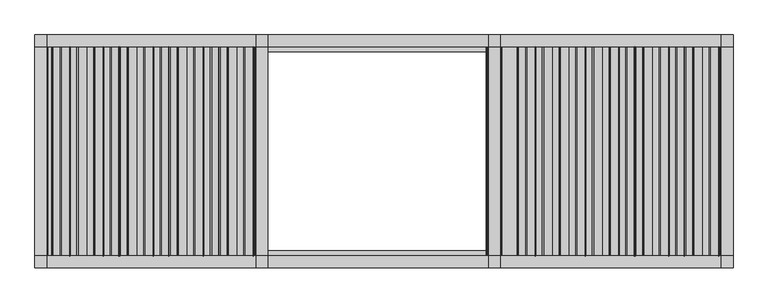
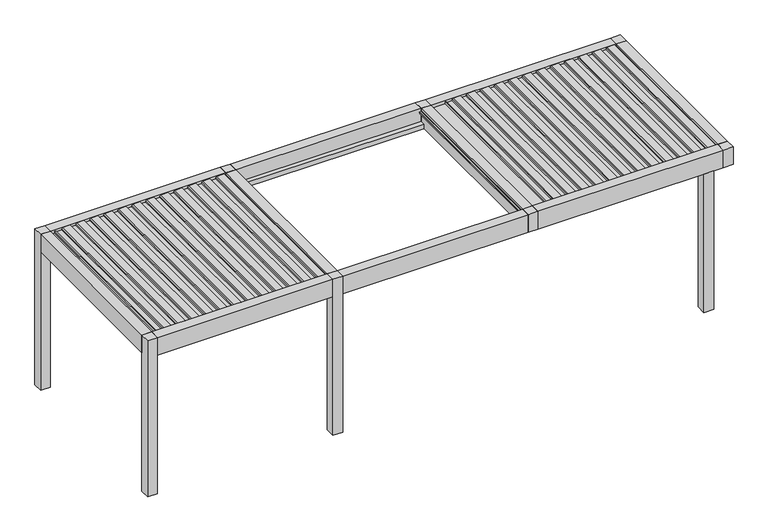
"""IFC4 building model written with IfcOpenShell, lengths in millimetres: proxy geometry, Renson_Amani_Patio_Cover : Renson_Amani_Patio_Cover."""

from ifc_helpers import new_model, si_unit, point, frame, frame_2d, origin, origin_with_axes, place, context, project, spatial, polyline, circle_curve, trimmed, segment, composite_curve, outline, extrude, source, transform, mapped, element, save


def generic_models_f69b2891(model_context):
    return source(origin(), model_context, "Body", "SweptSolid", [
        extrude(outline(composite_curve([segment(polyline([(2483.35, 7073.7289238), (2511.01198, 7076.1490335), (2512.3970364, 7104.984284), (2531.8911096, 7101.5469529), (2526.6075693, 6991.549838)]), True, "CONTINUOUS"), segment(trimmed(circle_curve(frame_2d((2511.6248435, 6992.26951)), 15.0), [point((2526.6075693, 6991.549838))], [point((2514.2295662, 6977.4973937))], False, "CARTESIAN"), True, "CONTINUOUS"), segment(polyline([(2514.2295662, 6977.4973937), (2495.0, 6974.1067023), (2495.0, 6886.3709263), (2512.0788237, 6883.3594689), (2511.3450182, 6868.0824984), (2483.35, 6865.6332517), (2483.35, 7073.7289238)]), True, "CONTINUOUS")], self_intersect=False)), frame((0.0, -1350.0, 0.0), z_axis=(0.0, 1.0, 0.0), x_axis=(0.0, 0.0, 1.0)), (0.0, 0.0, 1.0), 2700.0),
        extrude(outline(composite_curve([segment(polyline([(2483.35, 6858.7132078), (2511.01198, 6861.1333174), (2512.3970364, 6889.9685679), (2531.8911096, 6886.5312368), (2526.6075693, 6776.534122)]), True, "CONTINUOUS"), segment(trimmed(circle_curve(frame_2d((2511.6248435, 6777.2537939)), 15.0), [point((2526.6075693, 6776.534122))], [point((2514.2295662, 6762.4816776))], False, "CARTESIAN"), True, "CONTINUOUS"), segment(polyline([(2514.2295662, 6762.4816776), (2495.0, 6759.0909863), (2495.0, 6671.3552102), (2512.0788237, 6668.3437528), (2511.3450182, 6653.0667824), (2483.35, 6650.6175356), (2483.35, 6858.7132078)]), True, "CONTINUOUS")], self_intersect=False)), frame((0.0, -1350.0, 0.0), z_axis=(0.0, 1.0, 0.0), x_axis=(0.0, 0.0, 1.0)), (0.0, 0.0, 1.0), 2700.0),
        extrude(outline(composite_curve([segment(polyline([(2483.35, 6643.6974917), (2511.01198, 6646.1176014), (2512.3970364, 6674.9528519), (2531.8911096, 6671.5155208), (2526.6075693, 6561.5184059)]), True, "CONTINUOUS"), segment(trimmed(circle_curve(frame_2d((2511.6248435, 6562.2380779)), 15.0), [point((2526.6075693, 6561.5184059))], [point((2514.2295662, 6547.4659616))], False, "CARTESIAN"), True, "CONTINUOUS"), segment(polyline([(2514.2295662, 6547.4659616), (2495.0, 6544.0752702), (2495.0, 6456.3394942), (2512.0788237, 6453.3280368), (2511.3450182, 6438.0510663), (2483.35, 6435.6018196), (2483.35, 6643.6974917)]), True, "CONTINUOUS")], self_intersect=False)), frame((0.0, -1350.0, 0.0), z_axis=(0.0, 1.0, 0.0), x_axis=(0.0, 0.0, 1.0)), (0.0, 0.0, 1.0), 2700.0),
        extrude(outline(composite_curve([segment(polyline([(2483.35, 6428.6817757), (2511.01198, 6431.1018854), (2512.3970364, 6459.9371358), (2531.8911096, 6456.4998047), (2526.6075693, 6346.5026899)]), True, "CONTINUOUS"), segment(trimmed(circle_curve(frame_2d((2511.6248435, 6347.2223618)), 15.0), [point((2526.6075693, 6346.5026899))], [point((2514.2295662, 6332.4502455))], False, "CARTESIAN"), True, "CONTINUOUS"), segment(polyline([(2514.2295662, 6332.4502455), (2495.0, 6329.0595542), (2495.0, 6241.3237782), (2512.0788237, 6238.3123207), (2511.3450182, 6223.0353503), (2483.35, 6220.5861035), (2483.35, 6428.6817757)]), True, "CONTINUOUS")], self_intersect=False)), frame((0.0, -1350.0, 0.0), z_axis=(0.0, 1.0, 0.0), x_axis=(0.0, 0.0, 1.0)), (0.0, 0.0, 1.0), 2700.0),
        extrude(outline(composite_curve([segment(polyline([(2483.35, 6213.6660597), (2511.01198, 6216.0861693), (2512.3970364, 6244.9214198), (2531.8911096, 6241.4840887), (2526.6075693, 6131.4869738)]), True, "CONTINUOUS"), segment(trimmed(circle_curve(frame_2d((2511.6248435, 6132.2066458)), 15.0), [point((2526.6075693, 6131.4869738))], [point((2514.2295662, 6117.4345295))], False, "CARTESIAN"), True, "CONTINUOUS"), segment(polyline([(2514.2295662, 6117.4345295), (2495.0, 6114.0438381), (2495.0, 6026.3080621), (2512.0788237, 6023.2966047), (2511.3450182, 6008.0196342), (2483.35, 6005.5703875), (2483.35, 6213.6660597)]), True, "CONTINUOUS")], self_intersect=False)), frame((0.0, -1350.0, 0.0), z_axis=(0.0, 1.0, 0.0), x_axis=(0.0, 0.0, 1.0)), (0.0, 0.0, 1.0), 2700.0),
        extrude(outline(composite_curve([segment(polyline([(2483.35, 5998.6503436), (2511.01198, 6001.0704533), (2512.3970364, 6029.9057037), (2531.8911096, 6026.4683726), (2526.6075693, 5916.4712578)]), True, "CONTINUOUS"), segment(trimmed(circle_curve(frame_2d((2511.6248435, 5917.1909297)), 15.0), [point((2526.6075693, 5916.4712578))], [point((2514.2295662, 5902.4188134))], False, "CARTESIAN"), True, "CONTINUOUS"), segment(polyline([(2514.2295662, 5902.4188134), (2495.0, 5899.0281221), (2495.0, 5811.2923461), (2512.0788237, 5808.2808886), (2511.3450182, 5793.0039182), (2483.35, 5790.5546714), (2483.35, 5998.6503436)]), True, "CONTINUOUS")], self_intersect=False)), frame((0.0, -1350.0, 0.0), z_axis=(0.0, 1.0, 0.0), x_axis=(0.0, 0.0, 1.0)), (0.0, 0.0, 1.0), 2700.0),
        extrude(outline(composite_curve([segment(polyline([(2483.35, 5783.6346276), (2511.01198, 5786.0547372), (2512.3970364, 5814.8899877), (2531.8911096, 5811.4526566), (2526.6075693, 5701.4555418)]), True, "CONTINUOUS"), segment(trimmed(circle_curve(frame_2d((2511.6248435, 5702.1752137)), 15.0), [point((2526.6075693, 5701.4555418))], [point((2514.2295662, 5687.4030974))], False, "CARTESIAN"), True, "CONTINUOUS"), segment(polyline([(2514.2295662, 5687.4030974), (2495.0, 5684.012406), (2495.0, 5596.27663), (2512.0788237, 5593.2651726), (2511.3450182, 5577.9882021), (2483.35, 5575.5389554), (2483.35, 5783.6346276)]), True, "CONTINUOUS")], self_intersect=False)), frame((0.0, -1350.0, 0.0), z_axis=(0.0, 1.0, 0.0), x_axis=(0.0, 0.0, 1.0)), (0.0, 0.0, 1.0), 2700.0),
        extrude(outline(composite_curve([segment(polyline([(2483.35, 5568.6189115), (2511.01198, 5571.0390212), (2512.3970364, 5599.8742716), (2531.8911096, 5596.4369406), (2526.6075693, 5486.4398257)]), True, "CONTINUOUS"), segment(trimmed(circle_curve(frame_2d((2511.6248435, 5487.1594976)), 15.0), [point((2526.6075693, 5486.4398257))], [point((2514.2295662, 5472.3873813))], False, "CARTESIAN"), True, "CONTINUOUS"), segment(polyline([(2514.2295662, 5472.3873813), (2495.0, 5468.99669), (2495.0, 5381.260914), (2512.0788237, 5378.2494566), (2511.3450182, 5362.9724861), (2483.35, 5360.5232394), (2483.35, 5568.6189115)]), True, "CONTINUOUS")], self_intersect=False)), frame((0.0, -1350.0, 0.0), z_axis=(0.0, 1.0, 0.0), x_axis=(0.0, 0.0, 1.0)), (0.0, 0.0, 1.0), 2700.0),
        extrude(outline(composite_curve([segment(polyline([(2483.35, 5353.6031955), (2511.01198, 5356.0233051), (2512.3970364, 5384.8585556), (2531.8911096, 5381.4212245), (2526.6075693, 5271.4241097)]), True, "CONTINUOUS"), segment(trimmed(circle_curve(frame_2d((2511.6248435, 5272.1437816)), 15.0), [point((2526.6075693, 5271.4241097))], [point((2514.2295662, 5257.3716653))], False, "CARTESIAN"), True, "CONTINUOUS"), segment(polyline([(2514.2295662, 5257.3716653), (2495.0, 5253.980974), (2495.0, 5166.2451979), (2512.0788237, 5163.2337405), (2511.3450182, 5147.95677), (2483.35, 5145.5075233), (2483.35, 5353.6031955)]), True, "CONTINUOUS")], self_intersect=False)), frame((0.0, -1350.0, 0.0), z_axis=(0.0, 1.0, 0.0), x_axis=(0.0, 0.0, 1.0)), (0.0, 0.0, 1.0), 2700.0),
        extrude(outline(composite_curve([segment(polyline([(2483.35, 5138.5874794), (2511.01198, 5141.0075891), (2512.3970364, 5169.8428395), (2531.8911096, 5166.4055085), (2526.6075693, 5056.4083936)]), True, "CONTINUOUS"), segment(trimmed(circle_curve(frame_2d((2511.6248435, 5057.1280655)), 15.0), [point((2526.6075693, 5056.4083936))], [point((2514.2295662, 5042.3559492))], False, "CARTESIAN"), True, "CONTINUOUS"), segment(polyline([(2514.2295662, 5042.3559492), (2495.0, 5038.9652579), (2495.0, 4951.2294819), (2512.0788237, 4948.2180245), (2511.3450182, 4932.941054), (2483.35, 4930.4918073), (2483.35, 5138.5874794)]), True, "CONTINUOUS")], self_intersect=False)), frame((0.0, -1350.0, 0.0), z_axis=(0.0, 1.0, 0.0), x_axis=(0.0, 0.0, 1.0)), (0.0, 0.0, 1.0), 2700.0),
        extrude(outline(composite_curve([segment(polyline([(2483.35, 7288.7446399), (2511.01198, 7291.1647495), (2512.3970364, 7320.0), (2531.8911096, 7316.5626689), (2526.6075693, 7206.5655541)]), True, "CONTINUOUS"), segment(trimmed(circle_curve(frame_2d((2511.6248435, 7207.285226)), 15.0), [point((2526.6075693, 7206.5655541))], [point((2514.2295662, 7192.5131097))], False, "CARTESIAN"), True, "CONTINUOUS"), segment(polyline([(2514.2295662, 7192.5131097), (2495.0, 7189.1224184), (2495.0, 7101.3866423), (2512.0788237, 7098.3751849), (2511.3450182, 7083.0982144), (2483.35, 7080.6489677), (2483.35, 7288.7446399)]), True, "CONTINUOUS")], self_intersect=False)), frame((0.0, -1350.0, 0.0), z_axis=(0.0, 1.0, 0.0), x_axis=(0.0, 0.0, 1.0)), (0.0, 0.0, 1.0), 2700.0),
        extrude(outline(composite_curve([segment(polyline([(2483.35, 4923.5717634), (2511.01198, 4925.991873), (2512.3970364, 4954.8271235), (2531.8911096, 4951.3897924), (2526.6075693, 4841.3926776)]), True, "CONTINUOUS"), segment(trimmed(circle_curve(frame_2d((2511.6248435, 4842.1123495)), 15.0), [point((2526.6075693, 4841.3926776))], [point((2514.2295662, 4827.3402332))], False, "CARTESIAN"), True, "CONTINUOUS"), segment(polyline([(2514.2295662, 4827.3402332), (2495.0, 4823.9495419), (2495.0, 4736.2137658), (2512.0788237, 4733.2023084), (2511.3450182, 4717.9253379), (2483.35, 4715.4760912), (2483.35, 4923.5717634)]), True, "CONTINUOUS")], self_intersect=False)), frame((0.0, -1350.0, 0.0), z_axis=(0.0, 1.0, 0.0), x_axis=(0.0, 0.0, 1.0)), (0.0, 0.0, 1.0), 2700.0),
        extrude(outline(composite_curve([segment(polyline([(2483.35, 1073.7289238), (2511.01198, 1076.1490335), (2512.3970364, 1104.984284), (2531.8911096, 1101.5469529), (2526.6075693, 991.549838)]), True, "CONTINUOUS"), segment(trimmed(circle_curve(frame_2d((2511.6248435, 992.26951)), 15.0), [point((2526.6075693, 991.549838))], [point((2514.2295662, 977.4973937))], False, "CARTESIAN"), True, "CONTINUOUS"), segment(polyline([(2514.2295662, 977.4973937), (2495.0, 974.1067023), (2495.0, 886.3709263), (2512.0788237, 883.3594689), (2511.3450182, 868.0824984), (2483.35, 865.6332517), (2483.35, 1073.7289238)]), True, "CONTINUOUS")], self_intersect=False)), frame((0.0, -1350.0, 0.0), z_axis=(0.0, 1.0, 0.0), x_axis=(0.0, 0.0, 1.0)), (0.0, 0.0, 1.0), 2700.0),
        extrude(outline(composite_curve([segment(polyline([(2483.35, 858.7132078), (2511.01198, 861.1333174), (2512.3970364, 889.9685679), (2531.8911096, 886.5312368), (2526.6075693, 776.534122)]), True, "CONTINUOUS"), segment(trimmed(circle_curve(frame_2d((2511.6248435, 777.2537939)), 15.0), [point((2526.6075693, 776.534122))], [point((2514.2295662, 762.4816776))], False, "CARTESIAN"), True, "CONTINUOUS"), segment(polyline([(2514.2295662, 762.4816776), (2495.0, 759.0909863), (2495.0, 671.3552102), (2512.0788237, 668.3437528), (2511.3450182, 653.0667824), (2483.35, 650.6175356), (2483.35, 858.7132078)]), True, "CONTINUOUS")], self_intersect=False)), frame((0.0, -1350.0, 0.0), z_axis=(0.0, 1.0, 0.0), x_axis=(0.0, 0.0, 1.0)), (0.0, 0.0, 1.0), 2700.0),
        extrude(outline(composite_curve([segment(polyline([(2483.35, 643.6974917), (2511.01198, 646.1176014), (2512.3970364, 674.9528519), (2531.8911096, 671.5155208), (2526.6075693, 561.5184059)]), True, "CONTINUOUS"), segment(trimmed(circle_curve(frame_2d((2511.6248435, 562.2380779)), 15.0), [point((2526.6075693, 561.5184059))], [point((2514.2295662, 547.4659616))], False, "CARTESIAN"), True, "CONTINUOUS"), segment(polyline([(2514.2295662, 547.4659616), (2495.0, 544.0752702), (2495.0, 456.3394942), (2512.0788237, 453.3280368), (2511.3450182, 438.0510663), (2483.35, 435.6018196), (2483.35, 643.6974917)]), True, "CONTINUOUS")], self_intersect=False)), frame((0.0, -1350.0, 0.0), z_axis=(0.0, 1.0, 0.0), x_axis=(0.0, 0.0, 1.0)), (0.0, 0.0, 1.0), 2700.0),
        extrude(outline(composite_curve([segment(polyline([(2483.35, 428.6817757), (2511.01198, 431.1018854), (2512.3970364, 459.9371358), (2531.8911096, 456.4998047), (2526.6075693, 346.5026899)]), True, "CONTINUOUS"), segment(trimmed(circle_curve(frame_2d((2511.6248435, 347.2223618)), 15.0), [point((2526.6075693, 346.5026899))], [point((2514.2295662, 332.4502455))], False, "CARTESIAN"), True, "CONTINUOUS"), segment(polyline([(2514.2295662, 332.4502455), (2495.0, 329.0595542), (2495.0, 241.3237782), (2512.0788237, 238.3123207), (2511.3450182, 223.0353503), (2483.35, 220.5861035), (2483.35, 428.6817757)]), True, "CONTINUOUS")], self_intersect=False)), frame((0.0, -1350.0, 0.0), z_axis=(0.0, 1.0, 0.0), x_axis=(0.0, 0.0, 1.0)), (0.0, 0.0, 1.0), 2700.0),
        extrude(outline(composite_curve([segment(polyline([(2483.35, 213.6660597), (2511.01198, 216.0861693), (2512.3970364, 244.9214198), (2531.8911096, 241.4840887), (2526.6075693, 131.4869738)]), True, "CONTINUOUS"), segment(trimmed(circle_curve(frame_2d((2511.6248435, 132.2066458)), 15.0), [point((2526.6075693, 131.4869738))], [point((2514.2295662, 117.4345295))], False, "CARTESIAN"), True, "CONTINUOUS"), segment(polyline([(2514.2295662, 117.4345295), (2495.0, 114.0438381), (2495.0, 26.3080621), (2512.0788237, 23.2966047), (2511.3450182, 8.0196342), (2483.35, 5.5703875), (2483.35, 213.6660597)]), True, "CONTINUOUS")], self_intersect=False)), frame((0.0, -1350.0, 0.0), z_axis=(0.0, 1.0, 0.0), x_axis=(0.0, 0.0, 1.0)), (0.0, 0.0, 1.0), 2700.0),
        extrude(outline(composite_curve([segment(polyline([(2483.35, -1.3496564), (2511.01198, 1.0704533), (2512.3970364, 29.9057037), (2531.8911096, 26.4683726), (2526.6075693, -83.5287422)]), True, "CONTINUOUS"), segment(trimmed(circle_curve(frame_2d((2511.6248435, -82.8090703)), 15.0), [point((2526.6075693, -83.5287422))], [point((2514.2295662, -97.5811866))], False, "CARTESIAN"), True, "CONTINUOUS"), segment(polyline([(2514.2295662, -97.5811866), (2495.0, -100.9718779), (2495.0, -188.7076539), (2512.0788237, -191.7191114), (2511.3450182, -206.9960818), (2483.35, -209.4453286), (2483.35, -1.3496564)]), True, "CONTINUOUS")], self_intersect=False)), frame((0.0, -1350.0, 0.0), z_axis=(0.0, 1.0, 0.0), x_axis=(0.0, 0.0, 1.0)), (0.0, 0.0, 1.0), 2700.0),
        extrude(outline(composite_curve([segment(polyline([(2483.35, -216.3653724), (2511.01198, -213.9452628), (2512.3970364, -185.1100123), (2531.8911096, -188.5473434), (2526.6075693, -298.5444582)]), True, "CONTINUOUS"), segment(trimmed(circle_curve(frame_2d((2511.6248435, -297.8247863)), 15.0), [point((2526.6075693, -298.5444582))], [point((2514.2295662, -312.5969026))], False, "CARTESIAN"), True, "CONTINUOUS"), segment(polyline([(2514.2295662, -312.5969026), (2495.0, -315.987594), (2495.0, -403.72337), (2512.0788237, -406.7348274), (2511.3450182, -422.0117979), (2483.35, -424.4610446), (2483.35, -216.3653724)]), True, "CONTINUOUS")], self_intersect=False)), frame((0.0, -1350.0, 0.0), z_axis=(0.0, 1.0, 0.0), x_axis=(0.0, 0.0, 1.0)), (0.0, 0.0, 1.0), 2700.0),
        extrude(outline(composite_curve([segment(polyline([(2483.35, -431.3810885), (2511.01198, -428.9609788), (2512.3970364, -400.1257284), (2531.8911096, -403.5630594), (2526.6075693, -513.5601743)]), True, "CONTINUOUS"), segment(trimmed(circle_curve(frame_2d((2511.6248435, -512.8405024)), 15.0), [point((2526.6075693, -513.5601743))], [point((2514.2295662, -527.6126187))], False, "CARTESIAN"), True, "CONTINUOUS"), segment(polyline([(2514.2295662, -527.6126187), (2495.0, -531.00331), (2495.0, -618.739086), (2512.0788237, -621.7505434), (2511.3450182, -637.0275139), (2483.35, -639.4767606), (2483.35, -431.3810885)]), True, "CONTINUOUS")], self_intersect=False)), frame((0.0, -1350.0, 0.0), z_axis=(0.0, 1.0, 0.0), x_axis=(0.0, 0.0, 1.0)), (0.0, 0.0, 1.0), 2700.0),
        extrude(outline(composite_curve([segment(polyline([(2483.35, -646.3968045), (2511.01198, -643.9766949), (2512.3970364, -615.1414444), (2531.8911096, -618.5787755), (2526.6075693, -728.5758903)]), True, "CONTINUOUS"), segment(trimmed(circle_curve(frame_2d((2511.6248435, -727.8562184)), 15.0), [point((2526.6075693, -728.5758903))], [point((2514.2295662, -742.6283347))], False, "CARTESIAN"), True, "CONTINUOUS"), segment(polyline([(2514.2295662, -742.6283347), (2495.0, -746.019026), (2495.0, -833.7548021), (2512.0788237, -836.7662595), (2511.3450182, -852.04323), (2483.35, -854.4924767), (2483.35, -646.3968045)]), True, "CONTINUOUS")], self_intersect=False)), frame((0.0, -1350.0, 0.0), z_axis=(0.0, 1.0, 0.0), x_axis=(0.0, 0.0, 1.0)), (0.0, 0.0, 1.0), 2700.0),
        extrude(outline(composite_curve([segment(polyline([(2483.35, -861.4125206), (2511.01198, -858.9924109), (2512.3970364, -830.1571605), (2531.8911096, -833.5944915), (2526.6075693, -943.5916064)]), True, "CONTINUOUS"), segment(trimmed(circle_curve(frame_2d((2511.6248435, -942.8719345)), 15.0), [point((2526.6075693, -943.5916064))], [point((2514.2295662, -957.6440508))], False, "CARTESIAN"), True, "CONTINUOUS"), segment(polyline([(2514.2295662, -957.6440508), (2495.0, -961.0347421), (2495.0, -1048.7705181), (2512.0788237, -1051.7819755), (2511.3450182, -1067.058946), (2483.35, -1069.5081927), (2483.35, -861.4125206)]), True, "CONTINUOUS")], self_intersect=False)), frame((0.0, -1350.0, 0.0), z_axis=(0.0, 1.0, 0.0), x_axis=(0.0, 0.0, 1.0)), (0.0, 0.0, 1.0), 2700.0),
        extrude(outline(composite_curve([segment(polyline([(2483.35, 1288.7446399), (2511.01198, 1291.1647495), (2512.3970364, 1320.0), (2531.8911096, 1316.5626689), (2526.6075693, 1206.5655541)]), True, "CONTINUOUS"), segment(trimmed(circle_curve(frame_2d((2511.6248435, 1207.285226)), 15.0), [point((2526.6075693, 1206.5655541))], [point((2514.2295662, 1192.5131097))], False, "CARTESIAN"), True, "CONTINUOUS"), segment(polyline([(2514.2295662, 1192.5131097), (2495.0, 1189.1224184), (2495.0, 1101.3866423), (2512.0788237, 1098.3751849), (2511.3450182, 1083.0982144), (2483.35, 1080.6489677), (2483.35, 1288.7446399)]), True, "CONTINUOUS")], self_intersect=False)), frame((0.0, -1350.0, 0.0), z_axis=(0.0, 1.0, 0.0), x_axis=(0.0, 0.0, 1.0)), (0.0, 0.0, 1.0), 2700.0),
        extrude(outline(composite_curve([segment(polyline([(2483.35, -1076.4282366), (2511.01198, -1074.008127), (2512.3970364, -1045.1728765), (2531.8911096, -1048.6102076), (2526.6075693, -1158.6073224)]), True, "CONTINUOUS"), segment(trimmed(circle_curve(frame_2d((2511.6248435, -1157.8876505)), 15.0), [point((2526.6075693, -1158.6073224))], [point((2514.2295662, -1172.6597668))], False, "CARTESIAN"), True, "CONTINUOUS"), segment(polyline([(2514.2295662, -1172.6597668), (2495.0, -1176.0504581), (2495.0, -1263.7862342), (2512.0788237, -1266.7976916), (2511.3450182, -1282.0746621), (2483.35, -1284.5239088), (2483.35, -1076.4282366)]), True, "CONTINUOUS")], self_intersect=False)), frame((0.0, -1350.0, 0.0), z_axis=(0.0, 1.0, 0.0), x_axis=(0.0, 0.0, 1.0)), (0.0, 0.0, 1.0), 2700.0),
        extrude(outline(polyline([(7200.0, -1350.0), (7200.0, -1500.0), (7050.0, -1500.0), (7050.0, -1350.0), (7200.0, -1350.0)])), origin_with_axes(), (0.0, 0.0, 1.0), 2250.0),
        extrude(outline(polyline([(7500.0, -1350.0), (7500.0, -1500.0), (7350.0, -1500.0), (7350.0, -1350.0), (7500.0, -1350.0)])), frame((0.0, 0.0, 2250.0), z_axis=(0.0, 0.0, 1.0), x_axis=(1.0, 0.0, 0.0)), (0.0, 0.0, 1.0), 285.0),
        extrude(outline(polyline([(7500.0, 1500.0), (7500.0, 1350.0), (7350.0, 1350.0), (7350.0, 1500.0), (7500.0, 1500.0)])), frame((0.0, 0.0, 2250.0), z_axis=(0.0, 0.0, 1.0), x_axis=(1.0, 0.0, 0.0)), (0.0, 0.0, 1.0), 285.0),
        extrude(outline(polyline([(4500.0, -1350.0), (4500.0, -1500.0), (4350.0, -1500.0), (4350.0, -1350.0), (4500.0, -1350.0)])), frame((0.0, 0.0, 2250.0), z_axis=(0.0, 0.0, 1.0), x_axis=(1.0, 0.0, 0.0)), (0.0, 0.0, 1.0), 285.0),
        extrude(outline(polyline([(4500.0, 1350.0), (4350.0, 1350.0), (4350.0, 1500.0), (4500.0, 1500.0), (4500.0, 1350.0)])), frame((0.0, 0.0, 2250.0), z_axis=(0.0, 0.0, 1.0), x_axis=(1.0, 0.0, 0.0)), (0.0, 0.0, 1.0), 285.0),
        extrude(outline(polyline([(1500.0, -1350.0), (1500.0, -1500.0), (1350.0, -1500.0), (1350.0, -1350.0), (1500.0, -1350.0)])), origin_with_axes(), (0.0, 0.0, 1.0), 2535.0),
        extrude(outline(polyline([(1500.0, 1500.0), (1500.0, 1350.0), (1350.0, 1350.0), (1350.0, 1500.0), (1500.0, 1500.0)])), origin_with_axes(), (0.0, 0.0, 1.0), 2535.0),
        extrude(outline(polyline([(-1350.0, 1350.0), (-1500.0, 1350.0), (-1500.0, 1500.0), (-1350.0, 1500.0), (-1350.0, 1350.0)])), origin_with_axes(), (0.0, 0.0, 1.0), 2535.0),
        extrude(outline(polyline([(-1350.0, -1350.0), (-1350.0, -1500.0), (-1500.0, -1500.0), (-1500.0, -1350.0), (-1350.0, -1350.0)])), origin_with_axes(), (0.0, 0.0, 1.0), 2535.0),
        extrude(outline(polyline([(2466.6559373, 4500.0), (2466.6559373, 4710.0), (2480.6555802, 4713.7512887), (2480.6555802, 4520.4059055), (2496.400763, 4505.0), (2504.2449277, 4505.0), (2504.6823598, 4500.0), (2466.6559373, 4500.0)])), frame((0.0, -1350.0, 0.0), z_axis=(0.0, 1.0, 0.0), x_axis=(0.0, 0.0, 1.0)), (0.0, 0.0, 1.0), 2700.0),
        extrude(outline(polyline([(-1350.0, 2535.0), (-1350.0, 2322.0), (-1280.0000001, 2322.0), (-1280.0000001, 2250.0), (-1500.0, 2250.0), (-1500.0, 2535.0), (-1350.0, 2535.0)])), frame((4500.0, 0.0, 0.0), z_axis=(1.0, 0.0, 0.0), x_axis=(0.0, 1.0, 0.0)), (0.0, 0.0, 1.0), 2850.0),
        extrude(outline(polyline([(1500.0, 2250.0), (1280.0000001, 2250.0), (1280.0000001, 2322.0), (1350.0, 2322.0), (1350.0, 2535.0), (1500.0, 2535.0), (1500.0, 2250.0)])), frame((4500.0, 0.0, 0.0), z_axis=(1.0, 0.0, 0.0), x_axis=(0.0, 1.0, 0.0)), (0.0, 0.0, 1.0), 2850.0),
        extrude(outline(polyline([(2535.0, 7500.0), (2535.0, 7350.0), (2504.6823598, 7350.0), (2504.2449277, 7345.0), (2496.400763, 7345.0), (2480.6555802, 7329.2544156), (2480.6555802, 7319.9090324), (2466.6559373, 7323.6603211), (2466.6559373, 7350.0), (2250.0, 7350.0), (2250.0, 7500.0), (2535.0, 7500.0)])), frame((0.0, -1350.0, 0.0), z_axis=(0.0, 1.0, 0.0), x_axis=(0.0, 0.0, 1.0)), (0.0, 0.0, 1.0), 2700.0),
        extrude(outline(polyline([(-1350.0, 2535.0), (-1350.0, 2322.0), (-1280.0000001, 2322.0), (-1280.0000001, 2250.0), (-1500.0, 2250.0), (-1500.0, 2535.0), (-1350.0, 2535.0)])), frame((1500.0, 0.0, 0.0), z_axis=(1.0, 0.0, 0.0), x_axis=(0.0, 1.0, 0.0)), (0.0, 0.0, 1.0), 2850.0),
        extrude(outline(polyline([(1500.0, 2250.0), (1280.0000001, 2250.0), (1280.0000001, 2322.0), (1350.0, 2322.0), (1350.0, 2535.0), (1500.0, 2535.0), (1500.0, 2250.0)])), frame((1500.0, 0.0, 0.0), z_axis=(1.0, 0.0, 0.0), x_axis=(0.0, 1.0, 0.0)), (0.0, 0.0, 1.0), 2850.0),
        extrude(outline(polyline([(2535.0, 4500.0), (2535.0, 4350.0), (2504.6823598, 4350.0), (2504.2449277, 4345.0), (2496.400763, 4345.0), (2480.6555802, 4329.2544156), (2480.6555802, 4319.9090324), (2466.6559373, 4323.6603211), (2466.6559373, 4350.0), (2250.0, 4350.0), (2250.0, 4500.0), (2535.0, 4500.0)])), frame((0.0, -1350.0, 0.0), z_axis=(0.0, 1.0, 0.0), x_axis=(0.0, 0.0, 1.0)), (0.0, 0.0, 1.0), 2700.0),
        extrude(outline(polyline([(2466.6559373, -1350.0), (2466.6559373, -1290.0), (2480.6555802, -1286.2487113), (2480.6555802, -1329.5940945), (2496.400763, -1345.0), (2504.2449277, -1345.0), (2504.6823598, -1350.0), (2466.6559373, -1350.0)])), frame((0.0, -1350.0, 0.0), z_axis=(0.0, 1.0, 0.0), x_axis=(0.0, 0.0, 1.0)), (0.0, 0.0, 1.0), 2700.0),
        extrude(outline(polyline([(-1350.0, -1350.0), (-1500.0, -1350.0), (-1500.0, 1350.0), (-1350.0, 1350.0), (-1350.0, -1350.0)])), frame((0.0, 0.0, 2250.0), z_axis=(0.0, 0.0, 1.0), x_axis=(1.0, 0.0, 0.0)), (0.0, 0.0, 1.0), 285.0),
        extrude(outline(polyline([(2535.0, 1500.0), (2535.0, 1350.0), (2504.6904658, 1350.0), (2504.2449277, 1345.0), (2496.400763, 1345.0), (2480.6555802, 1329.2544156), (2480.6555802, 1319.9090324), (2466.6559373, 1323.6603211), (2466.6559373, 1350.0), (2250.0, 1350.0), (2250.0, 1500.0), (2535.0, 1500.0)])), frame((0.0, -1350.0, 0.0), z_axis=(0.0, 1.0, 0.0), x_axis=(0.0, 0.0, 1.0)), (0.0, 0.0, 1.0), 2700.0),
        extrude(outline(polyline([(-1350.0, 2535.0), (-1350.0, 2322.0), (-1280.0000001, 2322.0), (-1280.0000001, 2250.0), (-1500.0, 2250.0), (-1500.0, 2535.0), (-1350.0, 2535.0)])), frame((-1350.0, 0.0, 0.0), z_axis=(1.0, 0.0, 0.0), x_axis=(0.0, 1.0, 0.0)), (0.0, 0.0, 1.0), 2700.0),
        extrude(outline(polyline([(1500.0, 2250.0), (1280.0000001, 2250.0), (1280.0000001, 2322.0), (1350.0, 2322.0), (1350.0, 2535.0), (1500.0, 2535.0), (1500.0, 2250.0)])), frame((-1350.0, 0.0, 0.0), z_axis=(1.0, 0.0, 0.0), x_axis=(0.0, 1.0, 0.0)), (0.0, 0.0, 1.0), 2700.0),
    ])


if __name__ == "__main__":
    model = new_model("IFC4")
    model_context = context("Model", 3, world=origin())
    ifc_project = project(units=[si_unit("LENGTHUNIT", "METRE", prefix="MILLI")], contexts=[model_context])
    site = spatial("IfcSite", under=ifc_project)
    building = spatial("IfcBuilding", under=site)
    placement = place(None, origin())
    generic_models_shape = generic_models_f69b2891(model_context)
    element("IfcBuildingElementProxy", 1, Name="Renson_Amani_Patio_Cover : Renson_Amani_Patio_Cover", ObjectType="Renson_Amani_Patio_Cover : Renson_Amani_Patio_Cover", at=placement, inside=building, context=model_context, shape_type="MappedRepresentation", body=[
        mapped(generic_models_shape, transform((0.0, 0.0, 0.0), x_axis=(1.0, 0.0, 0.0), y_axis=(0.0, 1.0, 0.0), z_axis=(0.0, 0.0, 1.0))),
    ])
    save(model, "model.ifc")
